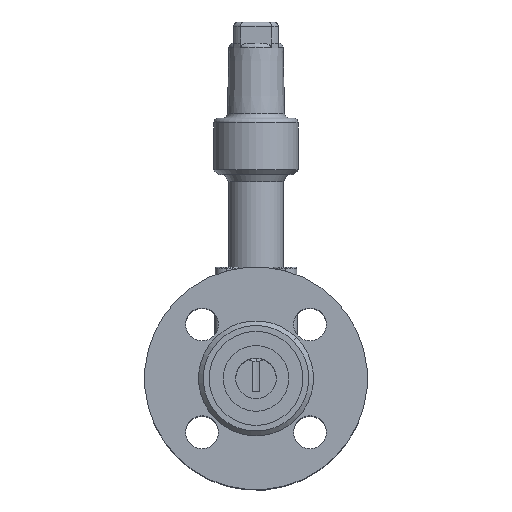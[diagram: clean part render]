
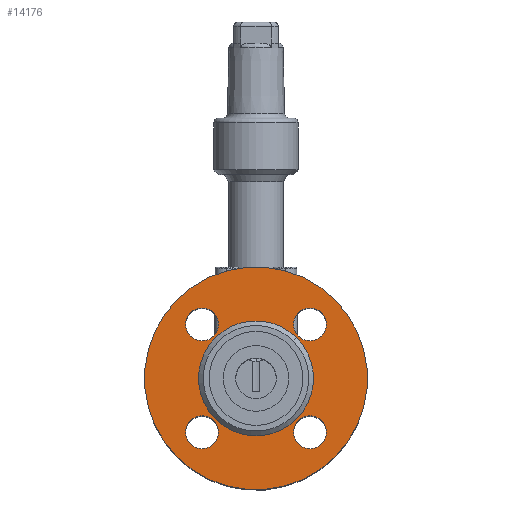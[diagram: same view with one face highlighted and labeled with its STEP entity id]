
A CAD part, top view. The second image highlights one B-rep face of the part: STEP entity #14176.
In plain terms, the highlighted planar face has unit normal (0, 0, 1) as drawn and (0, -1, 0) by its records, which use the part's own axes.
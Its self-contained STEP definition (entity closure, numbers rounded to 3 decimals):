
#81 = CIRCLE ( 'NONE', #82, 24.5 ) ;
#82 = AXIS2_PLACEMENT_3D ( 'NONE', #83, #84, #85 ) ;
#83 = CARTESIAN_POINT ( 'NONE',  ( 0., 2., 0. ) ) ;
#84 = DIRECTION ( 'NONE',  ( 0., 1., 0. ) ) ;
#85 = DIRECTION ( 'NONE',  ( -1., 0., 0. ) ) ;
#142 = CARTESIAN_POINT ( 'NONE',  ( 47.5, 2., 0. ) ) ;
#224 = EDGE_LOOP ( 'NONE', ( #21617, #10924 ) ) ;
#329 = CARTESIAN_POINT ( 'NONE',  ( -47.5, 2., 0. ) ) ;
#474 = ORIENTED_EDGE ( 'NONE', *, *, #10643, .T. ) ;
#17354 = CIRCLE ( 'NONE', #17355, 7. ) ;
#17355 = AXIS2_PLACEMENT_3D ( 'NONE', #17373, #17374, #17375 ) ;
#990 = VERTEX_POINT ( 'NONE', #16048 ) ;
#991 = EDGE_CURVE ( 'NONE', #10192, #10416, #16049, .T. ) ;
#17373 = CARTESIAN_POINT ( 'NONE',  ( 0., 2., -32.5 ) ) ;
#17374 = DIRECTION ( 'NONE',  ( 0., 1., 0. ) ) ;
#17375 = DIRECTION ( 'NONE',  ( -1., 0., 0. ) ) ;
#1220 = VERTEX_POINT ( 'NONE', #16324 ) ;
#1369 = ORIENTED_EDGE ( 'NONE', *, *, #991, .T. ) ;
#1447 = EDGE_CURVE ( 'NONE', #1220, #990, #17354, .T. ) ;
#1877 = CIRCLE ( 'NONE', #1878, 7. ) ;
#1878 = AXIS2_PLACEMENT_3D ( 'NONE', #1879, #1880, #1881 ) ;
#1879 = CARTESIAN_POINT ( 'NONE',  ( 0., 2., -32.5 ) ) ;
#1880 = DIRECTION ( 'NONE',  ( 0., 1., 0. ) ) ;
#1881 = DIRECTION ( 'NONE',  ( -1., 0., 0. ) ) ;
#1904 = CIRCLE ( 'NONE', #1905, 47.5 ) ;
#1905 = AXIS2_PLACEMENT_3D ( 'NONE', #1911, #1912, #1913 ) ;
#1911 = CARTESIAN_POINT ( 'NONE',  ( 0., 2., 0. ) ) ;
#1912 = DIRECTION ( 'NONE',  ( 0., 1., 0. ) ) ;
#1913 = DIRECTION ( 'NONE',  ( -1., 0., 0. ) ) ;
#18404 = CIRCLE ( 'NONE', #18405, 7. ) ;
#18405 = AXIS2_PLACEMENT_3D ( 'NONE', #18406, #18407, #18408 ) ;
#18406 = CARTESIAN_POINT ( 'NONE',  ( 0., 2., 32.5 ) ) ;
#18407 = DIRECTION ( 'NONE',  ( 0., 1., 0. ) ) ;
#18408 = DIRECTION ( 'NONE',  ( -1., 0., 0. ) ) ;
#2158 = CARTESIAN_POINT ( 'NONE',  ( 24.5, 2., 0. ) ) ;
#18575 = VERTEX_POINT ( 'NONE', #8869 ) ;
#18735 = CIRCLE ( 'NONE', #18736, 7. ) ;
#18736 = AXIS2_PLACEMENT_3D ( 'NONE', #18737, #18738, #18739 ) ;
#18737 = CARTESIAN_POINT ( 'NONE',  ( 32.5, 2., 0. ) ) ;
#18738 = DIRECTION ( 'NONE',  ( 0., 1., 0. ) ) ;
#18739 = DIRECTION ( 'NONE',  ( -1., 0., 0. ) ) ;
#18917 = VERTEX_POINT ( 'NONE', #10421 ) ;
#2687 = VERTEX_POINT ( 'NONE', #21634 ) ;
#2719 = CIRCLE ( 'NONE', #2720, 24.5 ) ;
#2720 = AXIS2_PLACEMENT_3D ( 'NONE', #2721, #2722, #2723 ) ;
#2721 = CARTESIAN_POINT ( 'NONE',  ( 0., 2., 0. ) ) ;
#2722 = DIRECTION ( 'NONE',  ( 0., 1., 0. ) ) ;
#2723 = DIRECTION ( 'NONE',  ( -1., 0., 0. ) ) ;
#19260 = EDGE_LOOP ( 'NONE', ( #13291, #12407 ) ) ;
#2919 = EDGE_CURVE ( 'NONE', #2687, #3812, #81, .T. ) ;
#3812 = VERTEX_POINT ( 'NONE', #2158 ) ;
#3884 = EDGE_CURVE ( 'NONE', #3812, #2687, #2719, .T. ) ;
#20858 = EDGE_CURVE ( 'NONE', #12520, #12741, #15406, .T. ) ;
#21617 = ORIENTED_EDGE ( 'NONE', *, *, #11372, .T. ) ;
#21634 = CARTESIAN_POINT ( 'NONE',  ( -24.5, 2., 0. ) ) ;
#5315 = FACE_BOUND ( 'NONE', #19260, .T. ) ;
#5316 = FACE_BOUND ( 'NONE', #12165, .T. ) ;
#5317 = FACE_BOUND ( 'NONE', #224, .T. ) ;
#5318 = FACE_BOUND ( 'NONE', #10683, .T. ) ;
#5319 = FACE_OUTER_BOUND ( 'NONE', #9010, .T. ) ;
#5320 = FACE_BOUND ( 'NONE', #10793, .T. ) ;
#5321 = PLANE ( 'NONE',  #5322 ) ;
#5322 = AXIS2_PLACEMENT_3D ( 'NONE', #5323, #5324, #5325 ) ;
#5323 = CARTESIAN_POINT ( 'NONE',  ( 24.5, 2., 0. ) ) ;
#5324 = DIRECTION ( 'NONE',  ( 0., 1., 0. ) ) ;
#5325 = DIRECTION ( 'NONE',  ( -1., 0., 0. ) ) ;
#6267 = VERTEX_POINT ( 'NONE', #8247 ) ;
#6494 = EDGE_CURVE ( 'NONE', #6267, #8661, #8721, .T. ) ;
#7213 = EDGE_CURVE ( 'NONE', #18917, #18575, #10904, .T. ) ;
#8247 = CARTESIAN_POINT ( 'NONE',  ( 39.5, 2., 0. ) ) ;
#8661 = VERTEX_POINT ( 'NONE', #15755 ) ;
#8721 = CIRCLE ( 'NONE', #8722, 7. ) ;
#8722 = AXIS2_PLACEMENT_3D ( 'NONE', #8723, #8724, #8725 ) ;
#8723 = CARTESIAN_POINT ( 'NONE',  ( 32.5, 2., 0. ) ) ;
#8724 = DIRECTION ( 'NONE',  ( 0., 1., 0. ) ) ;
#8725 = DIRECTION ( 'NONE',  ( -1., 0., 0. ) ) ;
#8869 = CARTESIAN_POINT ( 'NONE',  ( -7., 2., 32.5 ) ) ;
#9010 = EDGE_LOOP ( 'NONE', ( #11561, #11036 ) ) ;
#9250 = ORIENTED_EDGE ( 'NONE', *, *, #6494, .T. ) ;
#9732 = ORIENTED_EDGE ( 'NONE', *, *, #3884, .T. ) ;
#9773 = EDGE_CURVE ( 'NONE', #8661, #6267, #18735, .T. ) ;
#10147 = ORIENTED_EDGE ( 'NONE', *, *, #9773, .T. ) ;
#10192 = VERTEX_POINT ( 'NONE', #14393 ) ;
#10269 = ORIENTED_EDGE ( 'NONE', *, *, #2919, .T. ) ;
#10416 = VERTEX_POINT ( 'NONE', #15355 ) ;
#10421 = CARTESIAN_POINT ( 'NONE',  ( 7., 2., 32.5 ) ) ;
#10643 = EDGE_CURVE ( 'NONE', #10416, #10192, #16083, .T. ) ;
#10683 = EDGE_LOOP ( 'NONE', ( #10147, #9250 ) ) ;
#10793 = EDGE_LOOP ( 'NONE', ( #10269, #9732 ) ) ;
#10904 = CIRCLE ( 'NONE', #10905, 7. ) ;
#10905 = AXIS2_PLACEMENT_3D ( 'NONE', #10907, #10908, #10909 ) ;
#10907 = CARTESIAN_POINT ( 'NONE',  ( 0., 2., 32.5 ) ) ;
#10908 = DIRECTION ( 'NONE',  ( 0., 1., 0. ) ) ;
#10909 = DIRECTION ( 'NONE',  ( -1., 0., 0. ) ) ;
#10924 = ORIENTED_EDGE ( 'NONE', *, *, #7213, .T. ) ;
#11036 = ORIENTED_EDGE ( 'NONE', *, *, #20858, .F. ) ;
#11372 = EDGE_CURVE ( 'NONE', #18575, #18917, #18404, .T. ) ;
#11561 = ORIENTED_EDGE ( 'NONE', *, *, #12965, .F. ) ;
#12165 = EDGE_LOOP ( 'NONE', ( #1369, #474 ) ) ;
#12407 = ORIENTED_EDGE ( 'NONE', *, *, #1447, .T. ) ;
#12520 = VERTEX_POINT ( 'NONE', #142 ) ;
#12741 = VERTEX_POINT ( 'NONE', #329 ) ;
#12924 = EDGE_CURVE ( 'NONE', #990, #1220, #1877, .T. ) ;
#12965 = EDGE_CURVE ( 'NONE', #12741, #12520, #1904, .T. ) ;
#13291 = ORIENTED_EDGE ( 'NONE', *, *, #12924, .T. ) ;
#14176 = ADVANCED_FACE ( 'NONE', ( #5315, #5316, #5317, #5318, #5319, #5320 ), #5321, .F. ) ;
#14393 = CARTESIAN_POINT ( 'NONE',  ( -39.5, 2., 0. ) ) ;
#15355 = CARTESIAN_POINT ( 'NONE',  ( -25.5, 2., 0. ) ) ;
#15406 = CIRCLE ( 'NONE', #15407, 47.5 ) ;
#15407 = AXIS2_PLACEMENT_3D ( 'NONE', #15408, #15409, #15426 ) ;
#15408 = CARTESIAN_POINT ( 'NONE',  ( 0., 2., 0. ) ) ;
#15409 = DIRECTION ( 'NONE',  ( 0., 1., 0. ) ) ;
#15426 = DIRECTION ( 'NONE',  ( -1., 0., 0. ) ) ;
#15755 = CARTESIAN_POINT ( 'NONE',  ( 25.5, 2., 0. ) ) ;
#16048 = CARTESIAN_POINT ( 'NONE',  ( -7., 2., -32.5 ) ) ;
#16049 = CIRCLE ( 'NONE', #16050, 7. ) ;
#16050 = AXIS2_PLACEMENT_3D ( 'NONE', #16051, #16052, #16053 ) ;
#16051 = CARTESIAN_POINT ( 'NONE',  ( -32.5, 2., 0. ) ) ;
#16052 = DIRECTION ( 'NONE',  ( 0., 1., 0. ) ) ;
#16053 = DIRECTION ( 'NONE',  ( -1., 0., 0. ) ) ;
#16083 = CIRCLE ( 'NONE', #16084, 7. ) ;
#16084 = AXIS2_PLACEMENT_3D ( 'NONE', #16085, #16086, #16087 ) ;
#16085 = CARTESIAN_POINT ( 'NONE',  ( -32.5, 2., 0. ) ) ;
#16086 = DIRECTION ( 'NONE',  ( 0., 1., 0. ) ) ;
#16087 = DIRECTION ( 'NONE',  ( -1., 0., 0. ) ) ;
#16324 = CARTESIAN_POINT ( 'NONE',  ( 7., 2., -32.5 ) ) ;
